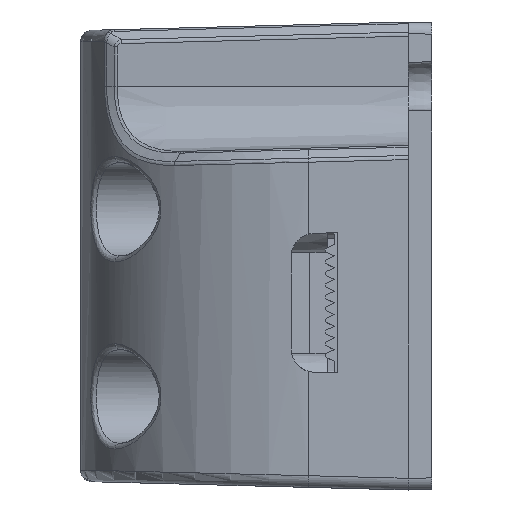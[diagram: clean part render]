
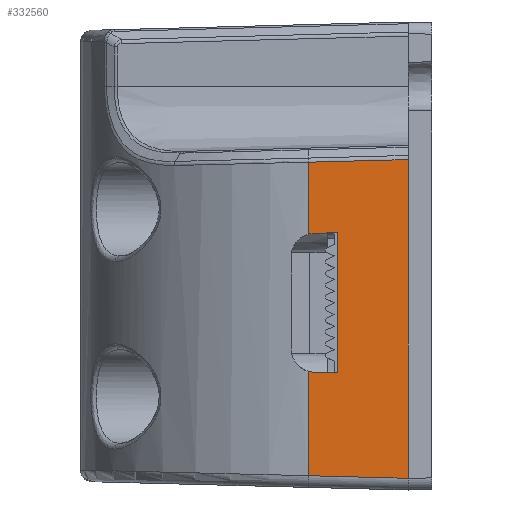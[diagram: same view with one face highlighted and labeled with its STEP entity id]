
A CAD part, left-side view. The second image highlights one B-rep face of the part: STEP entity #332560.
In plain terms, the highlighted planar face has unit normal (-1, 0.026, 0).
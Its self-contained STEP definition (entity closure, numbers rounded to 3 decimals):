
#291300=CARTESIAN_POINT('',(-104.843,8.,
2.));
#291310=VERTEX_POINT('',#291300);
#291360=CARTESIAN_POINT('',(-104.843,8.,-10.));
#291370=DIRECTION('',(0.,0.,1.));
#291380=VECTOR('',#291370,1.);
#291390=LINE('',#291360,#291380);
#291400=CARTESIAN_POINT('',(-104.843,8.,-10.));
#291410=VERTEX_POINT('',#291400);
#291420=EDGE_CURVE('',#291410,#291310,#291390,.T.);
#325220=CARTESIAN_POINT('',(-104.777,10.524,
8.018));
#325230=VERTEX_POINT('',#325220);
#325260=CARTESIAN_POINT('',(-104.777,10.524,
1.859));
#325270=DIRECTION('',(0.,0.,1.));
#325280=VECTOR('',#325270,1.);
#325290=LINE('',#325260,#325280);
#325300=CARTESIAN_POINT('',(-104.777,10.524,
1.859));
#325310=VERTEX_POINT('',#325300);
#325320=EDGE_CURVE('',#325310,#325230,#325290,.T.);
#325620=CARTESIAN_POINT('',(-104.777,10.524,
-9.859));
#325630=VERTEX_POINT('',#325620);
#325660=CARTESIAN_POINT('',(-104.777,10.524,
-18.777));
#325670=DIRECTION('',(0.,0.,1.));
#325680=VECTOR('',#325670,1.);
#325690=LINE('',#325660,#325680);
#325700=CARTESIAN_POINT('',(-104.777,10.523,
-18.777));
#325710=VERTEX_POINT('',#325700);
#325720=EDGE_CURVE('',#325710,#325630,#325690,.T.);
#331410=CARTESIAN_POINT('',(-105.,2.,8.241));
#331420=VERTEX_POINT('',#331410);
#331670=CARTESIAN_POINT('',(-105.,2.,
8.241));
#331680=DIRECTION('',(0.026,0.999,
-0.026));
#331690=VECTOR('',#331680,1.);
#331700=LINE('',#331670,#331690);
#331710=EDGE_CURVE('',#331420,#325230,#331700,.T.);
#332010=CARTESIAN_POINT('',(-105.,2.,20.));
#332020=DIRECTION('',(-1.,0.026,0.));
#332030=DIRECTION('',(0.,0.,-1.));
#332040=AXIS2_PLACEMENT_3D('',#332010,#332020,#332030);
#332050=PLANE('',#332040);
#332060=ORIENTED_EDGE('',*,*,#325720,.F.);
#332070=CARTESIAN_POINT('',(-104.791,10.,-7.929));
#332080=DIRECTION('',(1.,-0.026,0.));
#332090=DIRECTION('',(-0.026,-1.,-0.));
#332100=AXIS2_PLACEMENT_3D('',#332070,#332080,#332090);
#332110=ELLIPSE('',#332100,2.001,2.);
#332120=CARTESIAN_POINT('',(-104.789,10.07,
-9.928));
#332130=VERTEX_POINT('',#332120);
#332140=EDGE_CURVE('',#332130,#325630,#332110,.T.);
#332150=ORIENTED_EDGE('',*,*,#332140,.T.);
#332160=CARTESIAN_POINT('',(-104.789,10.07,
-9.928));
#332170=DIRECTION('',(-0.026,-0.999,
-0.035));
#332180=VECTOR('',#332170,1.);
#332190=LINE('',#332160,#332180);
#332200=EDGE_CURVE('',#332130,#291410,#332190,.T.);
#332210=ORIENTED_EDGE('',*,*,#332200,.F.);
#332220=ORIENTED_EDGE('',*,*,#291420,.F.);
#332230=CARTESIAN_POINT('',(-104.843,8.,2.));
#332240=DIRECTION('',(0.026,0.999,
-0.035));
#332250=VECTOR('',#332240,1.);
#332260=LINE('',#332230,#332250);
#332270=CARTESIAN_POINT('',(-104.789,10.07,
1.928));
#332280=VERTEX_POINT('',#332270);
#332290=EDGE_CURVE('',#291310,#332280,#332260,.T.);
#332300=ORIENTED_EDGE('',*,*,#332290,.F.);
#332310=CARTESIAN_POINT('',(-104.791,10.,-0.071));
#332320=DIRECTION('',(1.,-0.026,0.));
#332330=DIRECTION('',(-0.026,-1.,-0.));
#332340=AXIS2_PLACEMENT_3D('',#332310,#332320,#332330);
#332350=ELLIPSE('',#332340,2.001,2.);
#332360=EDGE_CURVE('',#325310,#332280,#332350,.T.);
#332370=ORIENTED_EDGE('',*,*,#332360,.T.);
#332380=ORIENTED_EDGE('',*,*,#325320,.F.);
#332390=ORIENTED_EDGE('',*,*,#331710,.T.);
#332400=CARTESIAN_POINT('',(-105.,2.,-19.));
#332410=DIRECTION('',(0.,0.,1.));
#332420=VECTOR('',#332410,1.);
#332430=LINE('',#332400,#332420);
#332440=CARTESIAN_POINT('',(-105.,2.,
-19.));
#332450=VERTEX_POINT('',#332440);
#332460=EDGE_CURVE('',#332450,#331420,#332430,.T.);
#332470=ORIENTED_EDGE('',*,*,#332460,.T.);
#332480=CARTESIAN_POINT('',(-104.777,10.523,
-18.777));
#332490=DIRECTION('',(-0.026,-0.999,
-0.026));
#332500=VECTOR('',#332490,1.);
#332510=LINE('',#332480,#332500);
#332520=EDGE_CURVE('',#325710,#332450,#332510,.T.);
#332530=ORIENTED_EDGE('',*,*,#332520,.T.);
#332540=EDGE_LOOP('',(#332530,#332470,#332390,#332380,#332370,#332300,
#332220,#332210,#332150,#332060));
#332550=FACE_OUTER_BOUND('',#332540,.T.);
#332560=ADVANCED_FACE('',(#332550),#332050,.T.);
